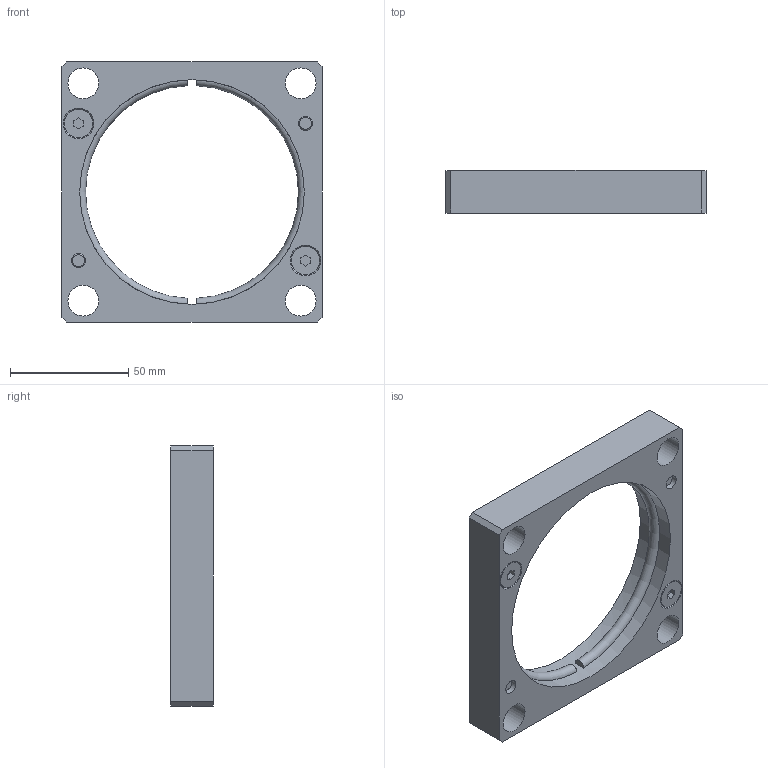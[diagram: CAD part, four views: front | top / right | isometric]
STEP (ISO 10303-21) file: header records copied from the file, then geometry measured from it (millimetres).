
FILE_DESCRIPTION(/* description */ (''),/* implementation_level */ '2;1');
FILE_NAME(/* name */ 'C:\Users\Jefferson\Desktop\Biblioteca Pro Nitro 2024 - Inventor\Flanges\PNB-65-XXX\PNB-65-095.stp',/* time_stamp */ '2024-12-30T16:30:47-03:00',/* author */ ('Jefferson'),/* organization */ (''),/* preprocessor_version */ 'ST-DEVELOPER v19',/* originating_system */ 'Autodesk Inventor 2023',/* authorisation */ '');
FILE_SCHEMA (('AUTOMOTIVE_DESIGN { 1 0 10303 214 3 1 1 }'));
Length unit declared in the file: millimetre
Products named in the file (3): PNB-65-095; DNB-0016-095; DIN 7991 - M6x16
Assembly tree (5 placements, depth 2):
  PNB-65-095
    DNB-0016-095
    DIN 7991 - M6x16  x4
Bounding box: 110 x 18 x 110 mm (x, y, z)
Volume: 82831.5 mm3; surface area: 29105.1 mm2
Topology: 5 solids, 5 shells, 253 faces, 660 edges, 438 vertices
Faces by surface type: plane 120, bspline 98, cylinder 17, cone 12, torus 6
Full cylindrical faces by diameter (mm): 6 x8, 12 x4, 13 x4, 95 x1
Entity records: 7313 total; most frequent: CARTESIAN_POINT 2500, ORIENTED_EDGE 1128, DIRECTION 646, EDGE_CURVE 564, VERTEX_POINT 375, LINE 324, VECTOR 324, EDGE_LOOP 247
